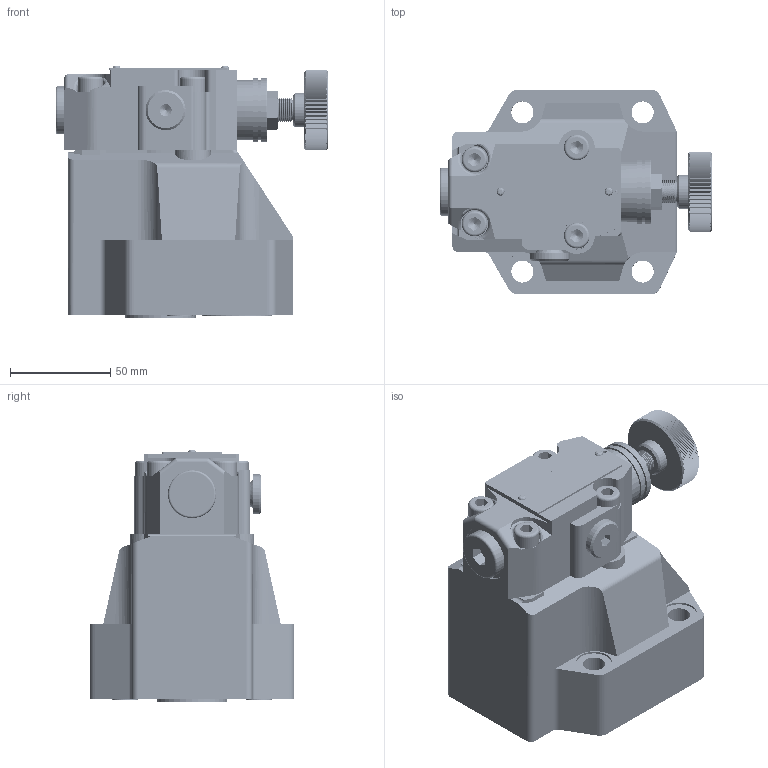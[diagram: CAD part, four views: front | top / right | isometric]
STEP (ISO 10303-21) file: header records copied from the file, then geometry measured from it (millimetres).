
FILE_DESCRIPTION(/* description */ (''),/* implementation_level */ '2;1');
FILE_NAME(/* name */ 'DZ20-1-5XJ先导式顺序阀.prt.stp',/* time_stamp */ '2022-03-30T20:18:58+08:00',/* author */ (''),/* organization */ (''),/* preprocessor_version */ 'ST-DEVELOPER v16.7',/* originating_system */ 'SIEMENS PLM Software NX 12.0',/* authorisation */ '');
FILE_SCHEMA (('AUTOMOTIVE_DESIGN { 1 0 10303 214 3 1 1 1 }'));
Products named in the file (1): DZ20-1-5XJ先导式顺序阀
Bounding box: 135.9 x 102 x 125.63 mm (x, y, z)
Volume: 819361 mm3; surface area: 126205.3 mm2
Topology: 23 solids, 25 shells, 1074 faces, 2833 edges, 1850 vertices
Faces by surface type: plane 638, cylinder 275, cone 80, bspline 56, torus 22, revolution 2, extrusion 1
Full cylindrical faces by diameter (mm): 1.8 x4, 1.9 x2, 2 x1, 2.5 x3, 3 x3, 3.3 x2, 3.4 x16, 4 x1, 4.035 x1, 4.636 x1, 4.93 x1, 5 x1, 5.5 x1, 6 x5, 7 x50, 8 x3, 8.4 x4, 9 x7, 9.81 x2, 10 x2, 11 x4, 11.5 x1, 12.2 x6, 12.5 x1, 12.73 x4, 12.81 x2, 13.2 x1, 14 x1, 15.39 x1, 16 x4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
Entity records: 110246 total; most frequent: CARTESIAN_POINT 87791, ORIENTED_EDGE 4788, DIRECTION 3700, EDGE_CURVE 2394, VERTEX_POINT 1655, AXIS2_PLACEMENT_3D 1413, EDGE_LOOP 1247, B_SPLINE_CURVE_WITH_KNOTS 1054
